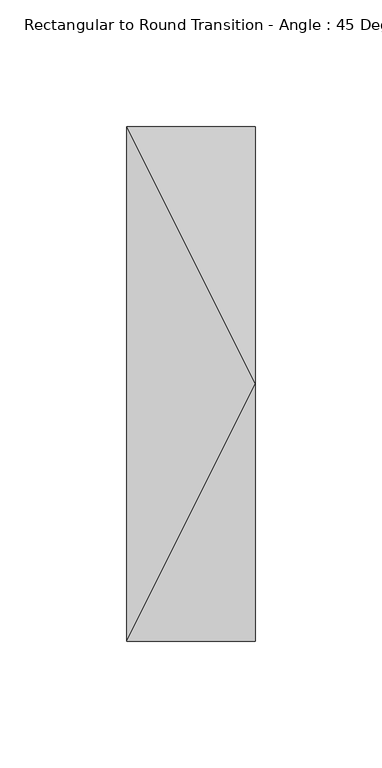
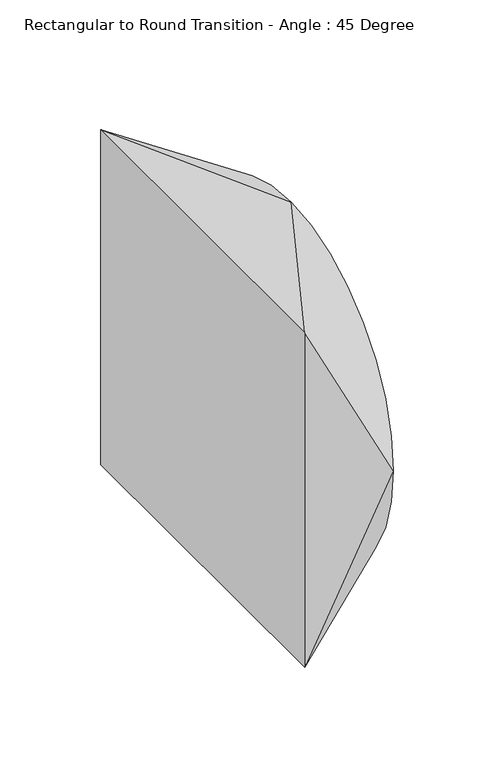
"""IFC4 building model written with IfcOpenShell, lengths in millimetres: duct fitting geometry, Rectangular to Round Transition - Angle : 45 Degree."""

import ifcopenshell
import ifcopenshell.guid

model = None  # the IFC model being written
_history = None  # IfcOwnerHistory: only IFC2X3 demands one
_inside = {}  # id of a spatial element -> (the spatial element, [elements in it])
_under = {}  # id of a project, library or spatial element -> (it, [spatial elements below it])
_declared = {}  # id of a project -> (the project, [libraries it declares])
_typed = {}  # id of a type object -> (the type object, [elements of that type])
_made_of = {}  # id of a material, layer set ... -> (it, [elements and type objects made of it])


def new_model(schema):
    """Start an empty IFC model of exactly this schema.

    Asked for "IFC4X3", IfcOpenShell would pick the latest addendum, in which some entities
    have other attributes; the version numbers below select the first issue.
    IFC2X3 requires an IfcOwnerHistory on every rooted entity: one is made here for all.
    """
    global model, _history
    if schema == "IFC4X3":
        model = ifcopenshell.file(schema_version=(4, 3, 0, 0))
    else:
        model = ifcopenshell.file(schema=schema)
    _inside.clear()
    _under.clear()
    _declared.clear()
    _typed.clear()
    _made_of.clear()
    _history = None
    if model.schema == "IFC2X3":
        org = make("IfcOrganization", Name="unknown")
        user = make(
            "IfcPersonAndOrganization",
            ThePerson=make("IfcPerson", FamilyName="unknown"),
            TheOrganization=org,
        )
        app = make(
            "IfcApplication",
            ApplicationDeveloper=org,
            Version="unknown",
            ApplicationFullName="unknown",
            ApplicationIdentifier="unknown",
        )
        _history = make(
            "IfcOwnerHistory",
            OwningUser=user,
            OwningApplication=app,
            ChangeAction="ADDED",
            CreationDate=0,
        )
    return model


def make(cls, **values):
    """One entity of the class cls with the attributes given. An attribute that is None is left unset."""
    return model.create_entity(
        cls, **{name: value for name, value in values.items() if value is not None}
    )


def rooted(cls, **values):
    """An entity with a GlobalId (a new one), such as an element, a storey or a relation."""
    return make(cls, GlobalId=ifcopenshell.guid.new(), OwnerHistory=_history, **values)


def si_unit(unit_type, name, prefix=None):
    """IfcSIUnit, for example si_unit("LENGTHUNIT", "METRE", prefix="MILLI")."""
    return make("IfcSIUnit", UnitType=unit_type, Prefix=prefix, Name=name)


def assignment(units):
    """IfcUnitAssignment: the units of a project."""
    return None if units is None else make("IfcUnitAssignment", Units=units)


def point(xyz):
    """IfcCartesianPoint."""
    return None if xyz is None else make("IfcCartesianPoint", Coordinates=xyz)


def direction(xyz):
    """IfcDirection."""
    return None if xyz is None else make("IfcDirection", DirectionRatios=xyz)


def frame(location, z_axis=None, x_axis=None):
    """IfcAxis2Placement3D, a coordinate frame: its origin and axes. An axis left out is left unset."""
    return make(
        "IfcAxis2Placement3D",
        Location=point(location),
        Axis=direction(z_axis),
        RefDirection=direction(x_axis),
    )


def origin():
    """The frame at (0, 0, 0) with its axes left unset."""
    return frame((0.0, 0.0, 0.0))


def place(relative_to, where):
    """IfcLocalPlacement: puts the frame where relative to a parent placement (None: the world)."""
    return make(
        "IfcLocalPlacement", PlacementRelTo=relative_to, RelativePlacement=where
    )


def context(
    kind, dimensions, precision=None, world=None, true_north=None, identifier=None
):
    """IfcGeometricRepresentationContext, for example the 3D "Model" context."""
    return make(
        "IfcGeometricRepresentationContext",
        ContextIdentifier=identifier,
        ContextType=kind,
        CoordinateSpaceDimension=dimensions,
        Precision=precision,
        WorldCoordinateSystem=world,
        TrueNorth=true_north,
    )


def project(units=None, contexts=None):
    """IfcProject with its units and contexts."""
    return rooted(
        "IfcProject",
        Name="project",
        RepresentationContexts=contexts,
        UnitsInContext=assignment(units),
    )


def spatial(cls, under=None, at=None, **own):
    """A site, building, storey or space (cls), placed at a placement, below another one or the project."""
    s = rooted(cls, ObjectPlacement=at, **own)
    if under is not None:
        _under.setdefault(under.id(), (under, []))[1].append(s)
    return s


def circle_curve(where, radius):
    """IfcCircle in the frame where."""
    return make("IfcCircle", Position=where, Radius=radius)


def shape(context_of_items, identifier, shape_type, items):
    """IfcShapeRepresentation: the items that make up one representation, for example the "Body"."""
    return make(
        "IfcShapeRepresentation",
        ContextOfItems=context_of_items,
        RepresentationIdentifier=identifier,
        RepresentationType=shape_type,
        Items=items,
    )


def source(mapping_origin, context_of_items, identifier, shape_type, items):
    """IfcRepresentationMap: a shape defined once, which mapped items show again and again."""
    return make(
        "IfcRepresentationMap",
        MappingOrigin=mapping_origin,
        MappedRepresentation=shape(context_of_items, identifier, shape_type, items),
    )


def transform(
    local_origin,
    x_axis=None,
    y_axis=None,
    z_axis=None,
    scale=None,
    scale2=None,
    scale3=None,
    uniform=True,
):
    """IfcCartesianTransformationOperator3D, or its non-uniform kind. x_axis, y_axis, z_axis: its Axis1, 2, 3."""
    if uniform:
        return make(
            "IfcCartesianTransformationOperator3D",
            Axis1=direction(x_axis),
            Axis2=direction(y_axis),
            LocalOrigin=point(local_origin),
            Scale=scale,
            Axis3=direction(z_axis),
        )
    return make(
        "IfcCartesianTransformationOperator3DnonUniform",
        Axis1=direction(x_axis),
        Axis2=direction(y_axis),
        LocalOrigin=point(local_origin),
        Scale=scale,
        Axis3=direction(z_axis),
        Scale2=scale2,
        Scale3=scale3,
    )


def mapped(mapping_source, mapping_target):
    """IfcMappedItem: shows the shape of a source again, moved by a transform."""
    return make(
        "IfcMappedItem", MappingSource=mapping_source, MappingTarget=mapping_target
    )


def made_of(thing, what):
    """Note that an element or type object is made of a material, layer set ...; save() writes the relation."""
    if what is not None:
        _made_of.setdefault(what.id(), (what, []))[1].append(thing)
    return thing


def element(
    cls,
    number,
    at=None,
    inside=None,
    cuts=None,
    type_object=None,
    material=None,
    context=None,
    identifier="Body",
    shape_type=None,
    held_by="IfcProductDefinitionShape",
    body=None,
    shapes=None,
    **own,
):
    """One element of the class cls, such as IfcWall. Its Tag is "e" and its number.

    at: its placement. inside: the storey or other place that contains it. cuts: it is an
    opening in that element (IfcRelVoidsElement). A single representation is given by context,
    identifier, shape_type and body (its items); several are given by shapes. held_by: the class
    of the entity that holds the representations. save() writes the other relations.
    """
    e = rooted(cls, Tag="e%d" % number, ObjectPlacement=at, **own)
    if body is not None:
        shapes = [shape(context, identifier, shape_type, body)]
    if shapes is not None:
        e.Representation = make(held_by, Representations=shapes)
    if inside is not None:
        _inside.setdefault(inside.id(), (inside, []))[1].append(e)
    if cuts is not None:
        rooted(
            "IfcRelVoidsElement", RelatingBuildingElement=cuts, RelatedOpeningElement=e
        )
    if type_object is not None:
        _typed.setdefault(type_object.id(), (type_object, []))[1].append(e)
    return made_of(e, material)


def aggregate(whole, parts):
    """IfcRelAggregates: a whole, such as a stair, and the parts it consists of."""
    return rooted("IfcRelAggregates", RelatingObject=whole, RelatedObjects=parts)


def save(model, path):
    """Write the relations noted so far, then the file.

    IfcRelAggregates (storeys below a building ...), IfcRelContainedInSpatialStructure (elements
    in a storey), IfcRelDefinesByType, IfcRelAssociatesMaterial and IfcRelDeclares: one each for
    every whole, place, type object, material and project.
    """
    for whole, parts in _under.values():
        aggregate(whole, parts)
    for where, things in _inside.values():
        rooted(
            "IfcRelContainedInSpatialStructure",
            RelatedElements=things,
            RelatingStructure=where,
        )
    for kind, things in _typed.values():
        rooted("IfcRelDefinesByType", RelatedObjects=things, RelatingType=kind)
    for what, things in _made_of.values():
        rooted("IfcRelAssociatesMaterial", RelatedObjects=things, RelatingMaterial=what)
    for by, libraries in _declared.values():
        rooted("IfcRelDeclares", RelatingContext=by, RelatedDefinitions=libraries)
    model.write(path)


def plane_surface(at):
    """IfcPlane: the flat surface through the origin of the frame at, square to its z axis."""
    return make("IfcPlane", Position=at)


def spline_surface(u_degree, v_degree, points, u_multiplicities, v_multiplicities, u_knots, v_knots, weights=None):
    """IfcBSplineSurfaceWithKnots; with weights, IfcRationalBSplineSurfaceWithKnots. points: one row for each step in u."""
    own = dict(
        UDegree=u_degree,
        VDegree=v_degree,
        ControlPointsList=[[point(p) for p in row] for row in points],
        SurfaceForm="UNSPECIFIED",
        UClosed=False,
        VClosed=False,
        SelfIntersect=False,
        UMultiplicities=u_multiplicities,
        VMultiplicities=v_multiplicities,
        UKnots=u_knots,
        VKnots=v_knots,
        KnotSpec="UNSPECIFIED",
    )
    if weights is None:
        return make("IfcBSplineSurfaceWithKnots", **own)
    return make("IfcRationalBSplineSurfaceWithKnots", WeightsData=weights, **own)


def advanced_brep(points, edges, surfaces, faces):
    """IfcAdvancedBrep: a solid bounded by faces that lie on surfaces and meet in shared edges.

    An edge is (start, end): straight between two places in points (the first is 0);
    or (start, end, curve); or (start, end, curve, False) where it runs against its curve.
    A face is (place in surfaces, loops), or (place, loops, False) where it looks against
    its surface's normal. A loop lists edges by number (the first is 1), with a minus sign
    where the edge is run from its end to its start. The first loop is the outer one.
    """
    corners = [point(p) for p in points]
    vertices = [make("IfcVertexPoint", VertexGeometry=c) for c in corners]
    made = []
    for start, end, *more in edges:
        made.append(
            make(
                "IfcEdgeCurve",
                EdgeStart=vertices[start],
                EdgeEnd=vertices[end],
                EdgeGeometry=more[0] if more else make("IfcPolyline", Points=[corners[start], corners[end]]),
                SameSense=more[1] if len(more) > 1 else True,
            )
        )
    hull = []
    for where, loops, *sense in faces:
        bounds = []
        for j, loop in enumerate(loops):
            ring = [make("IfcOrientedEdge", EdgeElement=made[abs(k) - 1], Orientation=k > 0) for k in loop]
            bounds.append(
                make(
                    "IfcFaceOuterBound" if j == 0 else "IfcFaceBound",
                    Bound=make("IfcEdgeLoop", EdgeList=ring),
                    Orientation=True,
                )
            )
        hull.append(make("IfcAdvancedFace", Bounds=bounds, FaceSurface=surfaces[where], SameSense=sense[0] if sense else True))
    return make("IfcAdvancedBrep", Outer=make("IfcClosedShell", CfsFaces=hull))


def rectangular_to_round_transition_angle_45_degree_5a025447(model_context):
    return source(origin(), model_context, "Body", "AdvancedBrep", [
        advanced_brep(
        [(50.8, 0.0, 101.6), (50.8, -101.6, 0.0), (50.8, 0.0, -101.6), (50.8, 101.6, 0.0), (0.0, -101.6, 101.6), (0.0, 101.6, 101.6), (0.0, 101.6, -101.6), (0.0, -101.6, -101.6)],
        [
            (0, 1, circle_curve(frame((50.8, 0.0, 0.0), z_axis=(1.0, 0.0, 0.0), x_axis=(0.0, 1.0, 0.0)), 101.6)),
            (1, 2, circle_curve(frame((50.8, 0.0, 0.0), z_axis=(1.0, 0.0, 0.0), x_axis=(0.0, 1.0, 0.0)), 101.6)),
            (2, 3, circle_curve(frame((50.8, 0.0, 0.0), z_axis=(1.0, 0.0, 0.0), x_axis=(0.0, 1.0, 0.0)), 101.6)),
            (3, 0, circle_curve(frame((50.8, 0.0, 0.0), z_axis=(1.0, 0.0, 0.0), x_axis=(0.0, 1.0, 0.0)), 101.6)),
            (4, 5),
            (5, 6),
            (6, 7),
            (7, 4),
            (0, 4),
            (4, 1),
            (7, 1),
            (7, 2),
            (6, 2),
            (6, 3),
            (5, 3),
            (5, 0),
        ],
        [
            plane_surface(frame((50.8, 0.0, 0.0), z_axis=(1.0, 0.0, 0.0), x_axis=(0.0, 0.0, -1.0))),
            plane_surface(frame((0.0, 0.0, 0.0), z_axis=(-1.0, 0.0, 0.0), x_axis=(0.0, 0.0, -1.0))),
            spline_surface(2, 1, [[(0.0, -101.6, 101.6), (50.8, 0.0, 101.6)], [(0.0, -101.6, 101.6), (50.8, -101.6, 101.6)], [(0.0, -101.6, 101.6), (50.8, -101.6, 0.0)]], [3, 3], [2, 2], [0.0, 1.0], [0.0, 1.0], weights=[[1.0, 1.0], [0.7071067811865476, 0.7071067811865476], [1.0, 1.0]]),
            plane_surface(frame((0.0, -101.6, 0.0), z_axis=(0.0, -1.0, 0.0), x_axis=(0.0, 0.0, -1.0))),
            spline_surface(2, 1, [[(0.0, -101.6, -101.6), (50.8, -101.6, 0.0)], [(0.0, -101.6, -101.6), (50.8, -101.6, -101.6)], [(0.0, -101.6, -101.6), (50.8, 0.0, -101.6)]], [3, 3], [2, 2], [0.0, 1.0], [0.0, 1.0], weights=[[1.0, 1.0], [0.7071067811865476, 0.7071067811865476], [1.0, 1.0]]),
            plane_surface(frame((0.0, 0.0, -101.6), z_axis=(0.0, 0.0, -1.0), x_axis=(0.0, 1.0, 0.0))),
            spline_surface(2, 1, [[(0.0, 101.6, -101.6), (50.8, 0.0, -101.6)], [(0.0, 101.6, -101.6), (50.8, 101.6, -101.6)], [(0.0, 101.6, -101.6), (50.8, 101.6, 0.0)]], [3, 3], [2, 2], [0.0, 1.0], [0.0, 1.0], weights=[[1.0, 1.0], [0.7071067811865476, 0.7071067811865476], [1.0, 1.0]]),
            plane_surface(frame((0.0, 101.6, 0.0), z_axis=(0.0, 1.0, 0.0), x_axis=(0.0, 0.0, 1.0))),
            spline_surface(2, 1, [[(0.0, 101.6, 101.6), (50.8, 101.6, 0.0)], [(0.0, 101.6, 101.6), (50.8, 101.6, 101.6)], [(0.0, 101.6, 101.6), (50.8, 0.0, 101.6)]], [3, 3], [2, 2], [0.0, 1.0], [0.0, 1.0], weights=[[1.0, 1.0], [0.7071067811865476, 0.7071067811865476], [1.0, 1.0]]),
            plane_surface(frame((0.0, 0.0, 101.6), z_axis=(0.0, 0.0, 1.0), x_axis=(0.0, -1.0, 0.0))),
        ],
        [
            (0, [[1, 2, 3, 4]]),
            (1, [[5, 6, 7, 8]]),
            (2, [[-1, 9, 10]]),
            (3, [[-8, 11, -10]]),
            (4, [[-2, -11, 12]]),
            (5, [[-7, 13, -12]]),
            (6, [[-3, -13, 14]]),
            (7, [[-6, 15, -14]]),
            (8, [[-4, -15, 16]]),
            (9, [[-5, -9, -16]]),
        ],
    ),
    ])


if __name__ == "__main__":
    model = new_model("IFC4")
    model_context = context("Model", 3, world=origin())
    ifc_project = project(units=[si_unit("LENGTHUNIT", "METRE", prefix="MILLI")], contexts=[model_context])
    site = spatial("IfcSite", under=ifc_project)
    building = spatial("IfcBuilding", under=site)
    placement = place(None, origin())
    rectangular_to_round_transition_angle_45_degree_shape = rectangular_to_round_transition_angle_45_degree_5a025447(model_context)
    element("IfcDuctFitting", 1, ObjectType="Rectangular to Round Transition - Angle : 45 Degree", at=placement, inside=building, context=model_context, shape_type="MappedRepresentation", body=[
        mapped(rectangular_to_round_transition_angle_45_degree_shape, transform((0.0, 0.0, 0.0), x_axis=(1.0, 0.0, 0.0), y_axis=(0.0, 1.0, 0.0), z_axis=(0.0, 0.0, 1.0))),
    ])
    save(model, "model.ifc")
